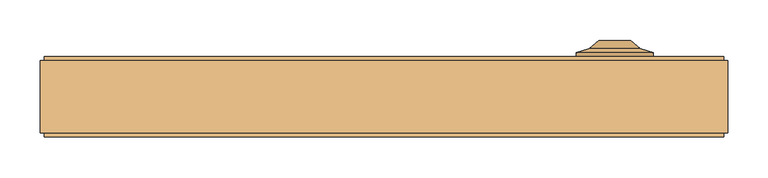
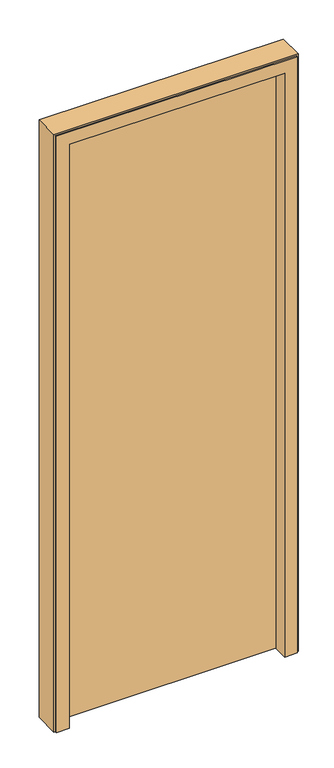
"""IFC4 building model written with IfcOpenShell, lengths in millimetres: door geometry, Puerta contraplacada Vaiven : Puerta contraplacada 0.85x2.10 m."""

from ifc_helpers import new_model, si_unit, frame, origin, place, context, project, spatial, polyline, circle_curve, outline, extrude, faceted_brep, source, transform, mapped, element, save
from ifc_brep_helpers import plane_surface, cylinder_surface, revolved_surface, advanced_brep


def door_1edce65c(model_context):
    return source(origin(), model_context, "Body", "SolidModel", [
        advanced_brep(
        [(332.78125, 55.0, 1000.0), (237.78125, 55.0, 1000.0), (237.78125, 50.0, 1000.0), (332.78125, 50.0, 1000.0), (316.78125, 60.0, 1000.0), (253.78125, 60.0, 1000.0), (304.9828812, 70.0, 1000.0), (265.5796188, 70.0, 1000.0), (303.1741787, 70.0, 1000.0), (267.3883213, 70.0, 1000.0), (303.1741787, 55.0, 1000.0), (267.3883213, 55.0, 1000.0), (285.28125, 55.0, 1000.0), (285.28125, 50.0, 1000.0)],
        [
            (0, 1, circle_curve(frame((285.28125, 55.0, 1000.0), z_axis=(0.0, -1.0, 0.0), x_axis=(-1.0, 0.0, 0.0)), 47.5)),
            (1, 2),
            (2, 3, circle_curve(frame((285.28125, 50.0, 1000.0), z_axis=(0.0, 1.0, 0.0), x_axis=(-1.0, 0.0, 0.0)), 47.5)),
            (3, 0),
            (1, 0, circle_curve(frame((285.28125, 55.0, 1000.0), z_axis=(0.0, -1.0, 0.0), x_axis=(-1.0, 0.0, 0.0)), 47.5)),
            (3, 2, circle_curve(frame((285.28125, 50.0, 1000.0), z_axis=(0.0, 1.0, 0.0), x_axis=(-1.0, 0.0, 0.0)), 47.5)),
            (4, 5, circle_curve(frame((285.28125, 60.0, 1000.0), z_axis=(0.0, -1.0, 0.0), x_axis=(-1.0, 0.0, 0.0)), 31.5)),
            (5, 1),
            (0, 4),
            (5, 4, circle_curve(frame((285.28125, 60.0, 1000.0), z_axis=(0.0, -1.0, 0.0), x_axis=(-1.0, 0.0, 0.0)), 31.5)),
            (6, 7, circle_curve(frame((285.28125, 70.0, 1000.0), z_axis=(0.0, -1.0, 0.0), x_axis=(-1.0, 0.0, 0.0)), 19.7016312)),
            (7, 5),
            (4, 6),
            (7, 6, circle_curve(frame((285.28125, 70.0, 1000.0), z_axis=(0.0, -1.0, 0.0), x_axis=(-1.0, 0.0, 0.0)), 19.7016312)),
            (8, 9, circle_curve(frame((285.28125, 70.0, 1000.0), z_axis=(0.0, -1.0, 0.0), x_axis=(-1.0, 0.0, 0.0)), 17.8929287)),
            (9, 7),
            (6, 8),
            (9, 8, circle_curve(frame((285.28125, 70.0, 1000.0), z_axis=(0.0, -1.0, 0.0), x_axis=(-1.0, 0.0, 0.0)), 17.8929287)),
            (10, 11, circle_curve(frame((285.28125, 55.0, 1000.0), z_axis=(0.0, -1.0, 0.0), x_axis=(-1.0, 0.0, 0.0)), 17.8929287)),
            (11, 9),
            (8, 10),
            (11, 10, circle_curve(frame((285.28125, 55.0, 1000.0), z_axis=(0.0, -1.0, 0.0), x_axis=(-1.0, 0.0, 0.0)), 17.8929287)),
            (12, 11),
            (10, 12),
            (2, 13),
            (13, 3),
        ],
        [
            cylinder_surface(frame((285.28125, 50.0, 1000.0), z_axis=(0.0, 1.0, 0.0), x_axis=(-1.0, 0.0, 0.0)), 47.5),
            revolved_surface(polyline([(237.78125, 55.0, 1000.0), (253.78125, 60.0, 1000.0)]), (285.28125, 50.0, 1000.0), (0.0, 1.0, 0.0)),
            revolved_surface(polyline([(253.78125, 60.0, 1000.0), (265.5796188, 70.0, 1000.0)]), (285.28125, 50.0, 1000.0), (0.0, 1.0, 0.0)),
            plane_surface(frame((285.28125, 70.0, 1000.0), z_axis=(0.0, 1.0, 0.0), x_axis=(-1.0, 0.0, 0.0))),
            revolved_surface(polyline([(267.38832130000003, 70.0, 1000.0), (267.38832130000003, 55.0, 1000.0)]), (285.28125, 50.0, 1000.0), (0.0, 1.0, 0.0)),
            plane_surface(frame((285.28125, 55.0, 1000.0), z_axis=(0.0, 1.0, 0.0), x_axis=(-1.0, 0.0, 0.0))),
            plane_surface(frame((285.28125, 50.0, 1000.0), z_axis=(0.0, -1.0, 0.0), x_axis=(-1.0, 0.0, 0.0))),
        ],
        [
            (0, [[1, 2, 3, 4]]),
            (0, [[5, -4, 6, -2]]),
            (1, [[7, 8, -1, 9]]),
            (1, [[10, -9, -5, -8]]),
            (2, [[11, 12, -7, 13]]),
            (2, [[14, -13, -10, -12]]),
            (3, [[15, 16, -11, 17]]),
            (3, [[18, -17, -14, -16]]),
            (4, [[19, 20, -15, 21]]),
            (4, [[22, -21, -18, -20]]),
            (5, [[23, -19, 24]]),
            (5, [[-24, -22, -23]]),
            (6, [[-3, 25, 26]]),
            (6, [[-6, -26, -25]]),
        ],
    ),
        faceted_brep([(425.0, 45.0, 0.0), (425.0, -45.0, 0.0), (420.0, -45.0, 0.0), (420.0, -50.0, 0.0), (375.0, -50.0, 0.0), (375.0, 0.0, 0.0), (392.0, 0.0, 0.0), (392.0, 50.0, 0.0), (420.0, 50.0, 0.0), (420.0, 45.0, 0.0), (425.0, 45.0, 2200.0), (425.0, -45.0, 2200.0), (-425.0, -45.0, 2200.0), (-425.0, -45.0, 0.0), (-420.0, -45.0, 0.0), (-420.0, -45.0, 2195.0), (420.0, -45.0, 2195.0), (420.0, -50.0, 2195.0), (-420.0, -50.0, 2195.0), (-420.0, -50.0, 0.0), (-375.0, -50.0, 0.0), (-375.0, -50.0, 2150.0), (375.0, -50.0, 2150.0), (375.0, 0.0, 2150.0), (-375.0, 0.0, 2150.0), (-375.0, 0.0, 0.0), (-392.0, 0.0, 0.0), (-392.0, 0.0, 2167.0), (392.0, 0.0, 2167.0), (392.0, 50.0, 2167.0), (-392.0, 50.0, 2167.0), (-392.0, 50.0, 2050.0), (-394.0, 50.0, 2050.0), (-394.0, 50.0, 1950.0), (-392.0, 50.0, 1950.0), (-392.0, 50.0, 1125.0174632), (-394.0, 50.0, 1125.0174632), (-394.0, 50.0, 1025.0174632), (-392.0, 50.0, 1025.0174632), (-392.0, 50.0, 200.0349265), (-394.0, 50.0, 200.0349265), (-394.0, 50.0, 100.0349265), (-392.0, 50.0, 100.0349265), (-392.0, 50.0, 0.0), (-420.0, 50.0, 0.0), (-420.0, 50.0, 2195.0), (420.0, 50.0, 2195.0), (420.0, 45.0, 2195.0), (-420.0, 45.0, 2195.0), (-420.0, 45.0, 0.0), (-425.0, 45.0, 0.0), (-425.0, 45.0, 2200.0), (-392.0, 7.5, 100.0349265), (-392.0, 7.5, 200.0349265), (-392.0, 7.5, 1025.0174632), (-392.0, 7.5, 1125.0174632), (-392.0, 7.5, 1950.0), (-392.0, 7.5, 2050.0), (-394.0, 7.5, 100.0349265), (-394.0, 7.5, 200.0349265), (-394.0, 7.5, 1025.0174632), (-394.0, 7.5, 1125.0174632), (-394.0, 7.5, 2050.0), (-394.0, 7.5, 1950.0)], [[[0, 1, 2, 3, 4, 5, 6, 7, 8, 9]], [[1, 0, 10, 11]], [[2, 1, 11, 12, 13, 14, 15, 16]], [[3, 2, 16, 17]], [[4, 3, 17, 18, 19, 20, 21, 22]], [[5, 4, 22, 23]], [[6, 5, 23, 24, 25, 26, 27, 28]], [[7, 6, 28, 29]], [[8, 7, 29, 30, 31, 32, 33, 34, 35, 36, 37, 38, 39, 40, 41, 42, 43, 44, 45, 46]], [[9, 8, 46, 47]], [[0, 9, 47, 48, 49, 50, 51, 10]], [[13, 50, 49, 44, 43, 26, 25, 20, 19, 14]], [[12, 51, 50, 13]], [[48, 45, 44, 49]], [[30, 27, 26, 43, 42, 52, 53, 39, 38, 54, 55, 35, 34, 56, 57, 31]], [[24, 21, 20, 25]], [[18, 15, 14, 19]], [[58, 52, 42, 41]], [[58, 59, 53, 52]], [[53, 59, 40, 39]], [[60, 54, 38, 37]], [[60, 61, 55, 54]], [[55, 61, 36, 35]], [[61, 60, 37, 36]], [[59, 58, 41, 40]], [[11, 10, 51, 12]], [[23, 22, 21, 24]], [[29, 28, 27, 30]], [[17, 16, 15, 18]], [[47, 46, 45, 48]], [[62, 63, 33, 32]], [[62, 32, 31, 57]], [[63, 62, 57, 56]], [[33, 63, 56, 34]]]),
        extrude(outline(polyline([(-392.0, 1.803125), (392.0, 1.803125), (392.0, 0.0), (-392.0, 0.0), (-392.0, 1.803125)])), frame((0.0, 0.0, 2.5), z_axis=(0.0, 0.0, 1.0), x_axis=(1.0, 0.0, 0.0)), (0.0, 0.0, 1.0), 2164.5),
        extrude(outline(polyline([(392.0, 48.203125), (-392.0, 48.203125), (-392.0, 50.0), (392.0, 50.0), (392.0, 48.203125)])), frame((0.0, 0.0, 2.5), z_axis=(0.0, 0.0, 1.0), x_axis=(1.0, 0.0, 0.0)), (0.0, 0.0, 1.0), 2164.5),
        extrude(outline(polyline([(317.0, 1.803125), (-317.0, 1.803125), (-317.0, 48.203125), (317.0, 48.203125), (317.0, 1.803125)])), frame((0.0, 0.0, 1037.5174632), z_axis=(0.0, 0.0, 1.0), x_axis=(1.0, 0.0, 0.0)), (0.0, 0.0, 1.0), 75.0),
        extrude(outline(polyline([(2167.0, 392.0), (2167.0, -392.0), (2.5, -392.0), (2.5, 392.0), (2167.0, 392.0)]), holes=[polyline([(77.5, 317.0), (77.5, -317.0), (2092.0, -317.0), (2092.0, 317.0), (77.5, 317.0)])]), frame((0.0, 1.803125, 0.0), z_axis=(0.0, 1.0, 0.0), x_axis=(0.0, 0.0, 1.0)), (0.0, 0.0, 1.0), 46.4),
    ])


if __name__ == "__main__":
    model = new_model("IFC4")
    model_context = context("Model", 3, world=origin())
    ifc_project = project(units=[si_unit("LENGTHUNIT", "METRE", prefix="MILLI")], contexts=[model_context])
    site = spatial("IfcSite", under=ifc_project)
    building = spatial("IfcBuilding", under=site)
    placement = place(None, origin())
    door_shape = door_1edce65c(model_context)
    element("IfcDoor", 1, ObjectType="Puerta contraplacada Vaiven : Puerta contraplacada 0.85x2.10 m", at=placement, inside=building, context=model_context, shape_type="MappedRepresentation", body=[
        mapped(door_shape, transform((0.0, 0.0, 0.0), x_axis=(1.0, 0.0, 0.0), y_axis=(0.0, 1.0, 0.0), z_axis=(0.0, 0.0, 1.0))),
    ])
    save(model, "model.ifc")
